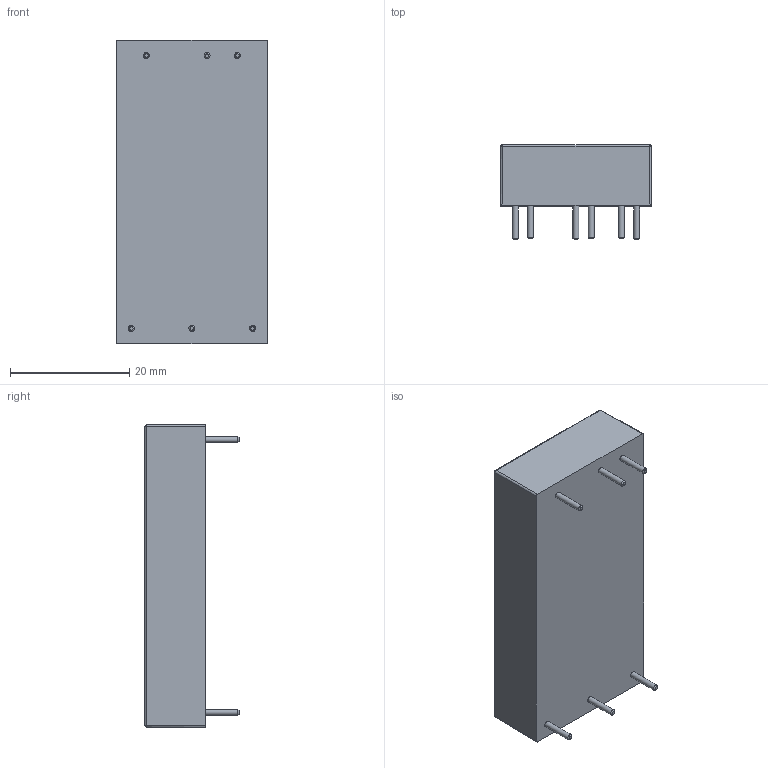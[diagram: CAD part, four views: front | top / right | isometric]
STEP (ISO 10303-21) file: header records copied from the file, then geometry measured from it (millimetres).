
FILE_DESCRIPTION (( 'STEP AP214' ), '1' );
FILE_NAME ('MPD30-V00.STEP', '2018-04-27T10:02:39', ( 'user' ), ( '' ), 'SwSTEP 2.0', 'SolidWorks 2016', '' );
FILE_SCHEMA (( 'AUTOMOTIVE_DESIGN' ));
Length unit declared in the file: millimetre
Products named in the file (2): MPD30-V00
Bounding box: 25.4 x 15.8 x 50.8 mm (x, y, z)
Volume: 13114.6 mm3; surface area: 4196.5 mm2
Topology: 1 solids, 1 shells, 36 faces, 70 edges, 38 vertices
Faces by surface type: cylinder 14, plane 12, cone 6, sphere 4
Full cylindrical faces by diameter (mm): 1 x6
Entity records: 1261 total; most frequent: DIRECTION 156, CARTESIAN_POINT 142, ORIENTED_EDGE 108, AXIS2_PLACEMENT_3D 68, EDGE_CURVE 54, EDGE_LOOP 54, FACE_OUTER_BOUND 42, UNCERTAINTY_MEASURE_WITH_UNIT 39
